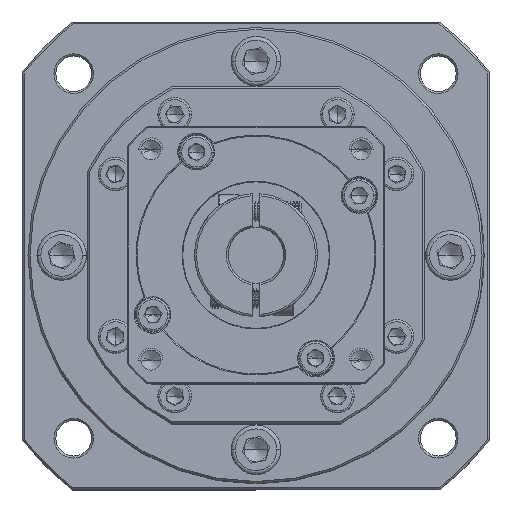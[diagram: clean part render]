
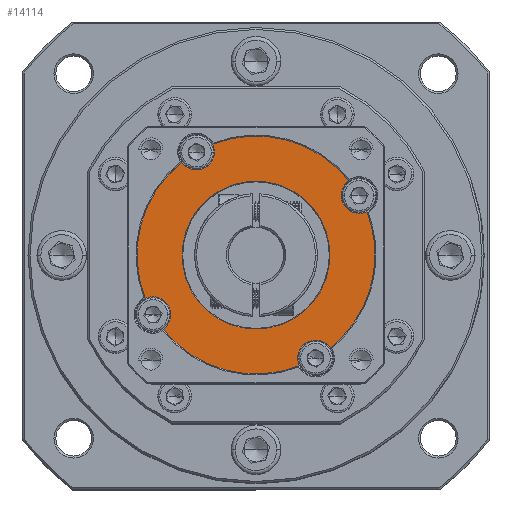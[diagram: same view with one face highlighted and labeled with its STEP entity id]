
A CAD part, top view. The second image highlights one B-rep face of the part: STEP entity #14114.
In plain terms, the highlighted planar face has unit normal (0, 0, 1).
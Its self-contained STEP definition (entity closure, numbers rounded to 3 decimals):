
#380 = CIRCLE ( 'NONE', #2505, 4.5 ) ;
#1106 = CARTESIAN_POINT ( 'NONE',  ( -42.391, 27.946, 26.986 ) ) ;
#1626 = DIRECTION ( 'NONE',  ( 0., 0., 1. ) ) ;
#1873 = CARTESIAN_POINT ( 'NONE',  ( -42.391, 27.946, 26.986 ) ) ;
#2426 = CIRCLE ( 'NONE', #14278, 18.644 ) ;
#2505 = AXIS2_PLACEMENT_3D ( 'NONE', #37541, #101442, #46783 ) ;
#2627 = CARTESIAN_POINT ( 'NONE',  ( -76.036, 53.927, 26.986 ) ) ;
#3286 = EDGE_CURVE ( 'NONE', #34101, #93275, #86356, .T. ) ;
#3753 = DIRECTION ( 'NONE',  ( 0., 0., -1. ) ) ;
#4623 = CIRCLE ( 'NONE', #75952, 4.5 ) ;
#5621 = EDGE_CURVE ( 'NONE', #78503, #81325, #27979, .T. ) ;
#6116 = DIRECTION ( 'NONE',  ( 0., 0., 1. ) ) ;
#6734 = CARTESIAN_POINT ( 'NONE',  ( -57.391, 53.927, 26.986 ) ) ;
#7835 = CARTESIAN_POINT ( 'NONE',  ( -85.323, 42.981, 26.986 ) ) ;
#8039 = CARTESIAN_POINT ( 'NONE',  ( -46.891, 27.946, 26.986 ) ) ;
#8335 = CARTESIAN_POINT ( 'NONE',  ( -72.391, 79.907, 26.986 ) ) ;
#10305 = DIRECTION ( 'NONE',  ( 1., 0., 0. ) ) ;
#11052 = DIRECTION ( 'NONE',  ( 1., 0., 0. ) ) ;
#12190 = DIRECTION ( 'NONE',  ( 0., 0., 1. ) ) ;
#13890 = EDGE_CURVE ( 'NONE', #78503, #28844, #77354, .T. ) ;
#14114 = ADVANCED_FACE ( 'NONE', ( #115899, #15827 ), #99171, .T. ) ;
#14117 = CARTESIAN_POINT ( 'NONE',  ( -33.946, 72.644, 26.986 ) ) ;
#14278 = AXIS2_PLACEMENT_3D ( 'NONE', #58449, #3753, #67657 ) ;
#15166 = CARTESIAN_POINT ( 'NONE',  ( -76.109, 77.371, 26.986 ) ) ;
#15827 = FACE_OUTER_BOUND ( 'NONE', #109170, .T. ) ;
#15931 = DIRECTION ( 'NONE',  ( 1., 0., 0. ) ) ;
#16277 = CARTESIAN_POINT ( 'NONE',  ( -31.41, 68.927, 26.986 ) ) ;
#17055 = VERTEX_POINT ( 'NONE', #34504 ) ;
#17545 = DIRECTION ( 'NONE',  ( 1., 0., 0. ) ) ;
#18053 = AXIS2_PLACEMENT_3D ( 'NONE', #6734, #70671, #15931 ) ;
#19198 = EDGE_CURVE ( 'NONE', #33067, #93275, #110257, .T. ) ;
#21356 = CARTESIAN_POINT ( 'NONE',  ( -57.391, 53.927, 26.986 ) ) ;
#21532 = CARTESIAN_POINT ( 'NONE',  ( -72.391, 79.907, 26.986 ) ) ;
#22086 = AXIS2_PLACEMENT_3D ( 'NONE', #66925, #12190, #76069 ) ;
#22159 = DIRECTION ( 'NONE',  ( 0., 0., 1. ) ) ;
#22450 = AXIS2_PLACEMENT_3D ( 'NONE', #60862, #6116, #70041 ) ;
#23882 = AXIS2_PLACEMENT_3D ( 'NONE', #8335, #72279, #17545 ) ;
#24154 = ORIENTED_EDGE ( 'NONE', *, *, #19198, .T. ) ;
#24316 = VERTEX_POINT ( 'NONE', #7835 ) ;
#25471 = DIRECTION ( 'NONE',  ( 1., 0., 0. ) ) ;
#26287 = VERTEX_POINT ( 'NONE', #15166 ) ;
#26309 = EDGE_CURVE ( 'NONE', #113393, #17055, #87337, .T. ) ;
#26516 = ORIENTED_EDGE ( 'NONE', *, *, #102295, .F. ) ;
#26686 = CARTESIAN_POINT ( 'NONE',  ( -57.391, 53.927, 26.986 ) ) ;
#27979 = CIRCLE ( 'NONE', #48858, 4.5 ) ;
#28844 = VERTEX_POINT ( 'NONE', #80924 ) ;
#29293 = CARTESIAN_POINT ( 'NONE',  ( -83.372, 38.927, 26.986 ) ) ;
#30514 = DIRECTION ( 'NONE',  ( 1., 0., 0. ) ) ;
#30704 = DIRECTION ( 'NONE',  ( 1., 0., 0. ) ) ;
#32586 = EDGE_CURVE ( 'NONE', #35155, #24316, #36647, .T. ) ;
#33067 = VERTEX_POINT ( 'NONE', #14117 ) ;
#33320 = ORIENTED_EDGE ( 'NONE', *, *, #94694, .T. ) ;
#34101 = VERTEX_POINT ( 'NONE', #50228 ) ;
#34504 = CARTESIAN_POINT ( 'NONE',  ( -46.446, 25.994, 26.986 ) ) ;
#34848 = VERTEX_POINT ( 'NONE', #105989 ) ;
#35155 = VERTEX_POINT ( 'NONE', #102692 ) ;
#35850 = DIRECTION ( 'NONE',  ( 1., 0., 0. ) ) ;
#36647 = CIRCLE ( 'NONE', #101490, 4.5 ) ;
#37541 = CARTESIAN_POINT ( 'NONE',  ( -31.41, 68.927, 26.986 ) ) ;
#38482 = DIRECTION ( 'NONE',  ( 1., 0., 0. ) ) ;
#39315 = ORIENTED_EDGE ( 'NONE', *, *, #79413, .F. ) ;
#40359 = AXIS2_PLACEMENT_3D ( 'NONE', #1873, #65808, #11052 ) ;
#43301 = ORIENTED_EDGE ( 'NONE', *, *, #3286, .F. ) ;
#44878 = DIRECTION ( 'NONE',  ( 0., 0., 1. ) ) ;
#45015 = AXIS2_PLACEMENT_3D ( 'NONE', #21356, #85273, #30514 ) ;
#45018 = CIRCLE ( 'NONE', #22450, 30. ) ;
#45618 = CARTESIAN_POINT ( 'NONE',  ( -38.674, 30.482, 26.986 ) ) ;
#46783 = DIRECTION ( 'NONE',  ( 1., 0., 0. ) ) ;
#48858 = AXIS2_PLACEMENT_3D ( 'NONE', #1106, #65055, #10305 ) ;
#50228 = CARTESIAN_POINT ( 'NONE',  ( -67.891, 79.907, 26.986 ) ) ;
#52676 = AXIS2_PLACEMENT_3D ( 'NONE', #99548, #44878, #108761 ) ;
#55363 = ORIENTED_EDGE ( 'NONE', *, *, #83739, .F. ) ;
#56383 = CARTESIAN_POINT ( 'NONE',  ( -57.391, 53.927, 26.986 ) ) ;
#58165 = EDGE_CURVE ( 'NONE', #113512, #34848, #106889, .T. ) ;
#58449 = CARTESIAN_POINT ( 'NONE',  ( -57.391, 53.927, 26.986 ) ) ;
#60862 = CARTESIAN_POINT ( 'NONE',  ( -57.391, 53.927, 26.986 ) ) ;
#62105 = ORIENTED_EDGE ( 'NONE', *, *, #78613, .T. ) ;
#62214 = AXIS2_PLACEMENT_3D ( 'NONE', #16277, #80159, #25471 ) ;
#63363 = AXIS2_PLACEMENT_3D ( 'NONE', #76855, #22159, #86069 ) ;
#65055 = DIRECTION ( 'NONE',  ( 0., 0., 1. ) ) ;
#65567 = DIRECTION ( 'NONE',  ( 1., 0., 0. ) ) ;
#65808 = DIRECTION ( 'NONE',  ( 0., 0., 1. ) ) ;
#66925 = CARTESIAN_POINT ( 'NONE',  ( -83.372, 38.927, 26.986 ) ) ;
#67004 = CIRCLE ( 'NONE', #62214, 4.5 ) ;
#67657 = DIRECTION ( 'NONE',  ( 1., 0., 0. ) ) ;
#70041 = DIRECTION ( 'NONE',  ( 1., 0., 0. ) ) ;
#70671 = DIRECTION ( 'NONE',  ( 0., 0., 1. ) ) ;
#70709 = ORIENTED_EDGE ( 'NONE', *, *, #5621, .F. ) ;
#71893 = ORIENTED_EDGE ( 'NONE', *, *, #32586, .F. ) ;
#72279 = DIRECTION ( 'NONE',  ( 0., 0., 1. ) ) ;
#72330 = ORIENTED_EDGE ( 'NONE', *, *, #75949, .F. ) ;
#75620 = CIRCLE ( 'NONE', #22086, 4.5 ) ;
#75949 = EDGE_CURVE ( 'NONE', #111714, #104600, #67004, .T. ) ;
#75952 = AXIS2_PLACEMENT_3D ( 'NONE', #21532, #85462, #30704 ) ;
#76069 = DIRECTION ( 'NONE',  ( 1., 0., 0. ) ) ;
#76855 = CARTESIAN_POINT ( 'NONE',  ( -57.391, 53.927, 26.986 ) ) ;
#77354 = CIRCLE ( 'NONE', #63363, 30. ) ;
#78503 = VERTEX_POINT ( 'NONE', #45618 ) ;
#78613 = EDGE_CURVE ( 'NONE', #26287, #24316, #100241, .T. ) ;
#79413 = EDGE_CURVE ( 'NONE', #113393, #35155, #75620, .T. ) ;
#80159 = DIRECTION ( 'NONE',  ( 0., 0., 1. ) ) ;
#80924 = CARTESIAN_POINT ( 'NONE',  ( -27.391, 53.927, 26.986 ) ) ;
#81325 = VERTEX_POINT ( 'NONE', #8039 ) ;
#83739 = EDGE_CURVE ( 'NONE', #81325, #17055, #114114, .T. ) ;
#84844 = ORIENTED_EDGE ( 'NONE', *, *, #13890, .T. ) ;
#85273 = DIRECTION ( 'NONE',  ( 0., 0., 1. ) ) ;
#85462 = DIRECTION ( 'NONE',  ( 0., 0., 1. ) ) ;
#86016 = ORIENTED_EDGE ( 'NONE', *, *, #58165, .T. ) ;
#86069 = DIRECTION ( 'NONE',  ( 1., 0., 0. ) ) ;
#86356 = CIRCLE ( 'NONE', #23882, 4.5 ) ;
#87337 = CIRCLE ( 'NONE', #18053, 30. ) ;
#90570 = DIRECTION ( 'NONE',  ( 0., 0., -1. ) ) ;
#90753 = ORIENTED_EDGE ( 'NONE', *, *, #26309, .T. ) ;
#93230 = DIRECTION ( 'NONE',  ( 0., 0., 1. ) ) ;
#93275 = VERTEX_POINT ( 'NONE', #99927 ) ;
#93593 = CARTESIAN_POINT ( 'NONE',  ( -35.91, 68.927, 26.986 ) ) ;
#94694 = EDGE_CURVE ( 'NONE', #34848, #113512, #2426, .T. ) ;
#97203 = AXIS2_PLACEMENT_3D ( 'NONE', #26686, #90570, #35850 ) ;
#99171 = PLANE ( 'NONE',  #52676 ) ;
#99548 = CARTESIAN_POINT ( 'NONE',  ( -57.391, 53.927, 26.986 ) ) ;
#99927 = CARTESIAN_POINT ( 'NONE',  ( -68.336, 81.859, 26.986 ) ) ;
#100241 = CIRCLE ( 'NONE', #115374, 30. ) ;
#101442 = DIRECTION ( 'NONE',  ( 0., 0., 1. ) ) ;
#101490 = AXIS2_PLACEMENT_3D ( 'NONE', #29293, #93230, #38482 ) ;
#102295 = EDGE_CURVE ( 'NONE', #33067, #111714, #380, .T. ) ;
#102401 = EDGE_CURVE ( 'NONE', #26287, #34101, #4623, .T. ) ;
#102692 = CARTESIAN_POINT ( 'NONE',  ( -78.872, 38.927, 26.986 ) ) ;
#104600 = VERTEX_POINT ( 'NONE', #105056 ) ;
#104872 = ORIENTED_EDGE ( 'NONE', *, *, #113732, .T. ) ;
#105018 = ORIENTED_EDGE ( 'NONE', *, *, #102401, .F. ) ;
#105056 = CARTESIAN_POINT ( 'NONE',  ( -29.459, 64.872, 26.986 ) ) ;
#105989 = CARTESIAN_POINT ( 'NONE',  ( -38.747, 53.927, 26.986 ) ) ;
#106889 = CIRCLE ( 'NONE', #97203, 18.644 ) ;
#108761 = DIRECTION ( 'NONE',  ( 1., 0., 0. ) ) ;
#109170 = EDGE_LOOP ( 'NONE', ( #39315, #90753, #55363, #70709, #84844, #104872, #72330, #26516, #24154, #43301, #105018, #62105, #71893 ) ) ;
#109676 = CARTESIAN_POINT ( 'NONE',  ( -80.836, 35.209, 26.986 ) ) ;
#110257 = CIRCLE ( 'NONE', #45015, 30. ) ;
#111262 = EDGE_LOOP ( 'NONE', ( #33320, #86016 ) ) ;
#111714 = VERTEX_POINT ( 'NONE', #93593 ) ;
#113393 = VERTEX_POINT ( 'NONE', #109676 ) ;
#113512 = VERTEX_POINT ( 'NONE', #2627 ) ;
#113732 = EDGE_CURVE ( 'NONE', #28844, #104600, #45018, .T. ) ;
#114114 = CIRCLE ( 'NONE', #40359, 4.5 ) ;
#115374 = AXIS2_PLACEMENT_3D ( 'NONE', #56383, #1626, #65567 ) ;
#115899 = FACE_BOUND ( 'NONE', #111262, .T. ) ;
